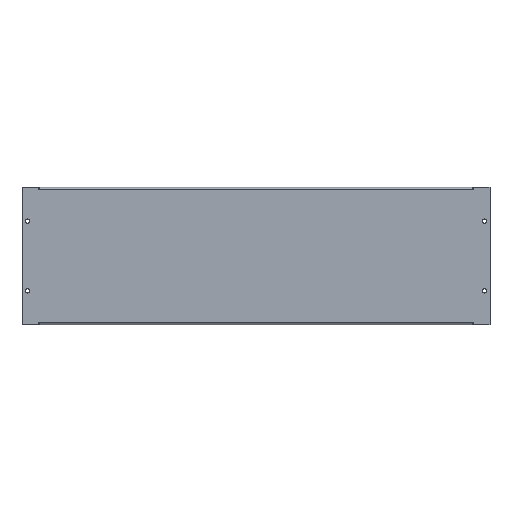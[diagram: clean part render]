
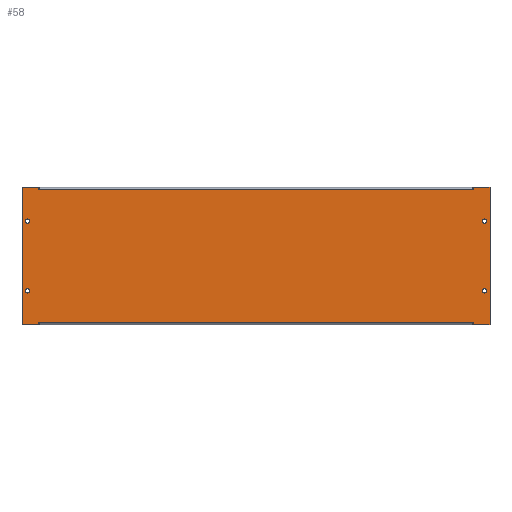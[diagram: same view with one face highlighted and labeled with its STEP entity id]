
A CAD part, top view. The second image highlights one B-rep face of the part: STEP entity #58.
In plain terms, the highlighted planar face has unit normal (0, 0, 1).
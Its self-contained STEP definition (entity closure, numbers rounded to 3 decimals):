
#58=ADVANCED_FACE('',(#142,#144,#146,#148,#150),#152,.F.);
#142=FACE_BOUND('',#143,.T.);
#143=EDGE_LOOP('',(#409,#410,#411,#412,#413,#414,#415,#416,#417,#418,#419,#420,#421,
#422,#423,#424));
#144=FACE_BOUND('',#145,.T.);
#145=EDGE_LOOP('',(#425));
#146=FACE_BOUND('',#147,.T.);
#147=EDGE_LOOP('',(#426));
#148=FACE_BOUND('',#149,.T.);
#149=EDGE_LOOP('',(#427));
#150=FACE_BOUND('',#151,.T.);
#151=EDGE_LOOP('',(#428));
#152=PLANE('',#153);
#153=AXIS2_PLACEMENT_3D('',#154,#155,#156);
#154=CARTESIAN_POINT('',(0.,0.,0.));
#155=DIRECTION('',(0.,0.,-1.));
#156=DIRECTION('',(-1.,0.,0.));
#409=ORIENTED_EDGE('',*,*,#581,.F.);
#410=ORIENTED_EDGE('',*,*,#582,.T.);
#411=ORIENTED_EDGE('',*,*,#583,.F.);
#412=ORIENTED_EDGE('',*,*,#584,.F.);
#413=ORIENTED_EDGE('',*,*,#585,.T.);
#414=ORIENTED_EDGE('',*,*,#586,.T.);
#415=ORIENTED_EDGE('',*,*,#587,.T.);
#416=ORIENTED_EDGE('',*,*,#588,.F.);
#417=ORIENTED_EDGE('',*,*,#589,.F.);
#418=ORIENTED_EDGE('',*,*,#590,.T.);
#419=ORIENTED_EDGE('',*,*,#591,.F.);
#420=ORIENTED_EDGE('',*,*,#592,.F.);
#421=ORIENTED_EDGE('',*,*,#593,.T.);
#422=ORIENTED_EDGE('',*,*,#594,.T.);
#423=ORIENTED_EDGE('',*,*,#595,.T.);
#424=ORIENTED_EDGE('',*,*,#596,.F.);
#425=ORIENTED_EDGE('',*,*,#557,.T.);
#426=ORIENTED_EDGE('',*,*,#559,.T.);
#427=ORIENTED_EDGE('',*,*,#561,.F.);
#428=ORIENTED_EDGE('',*,*,#563,.F.);
#557=EDGE_CURVE('',#645,#645,#646,.T.);
#559=EDGE_CURVE('',#649,#649,#650,.T.);
#561=EDGE_CURVE('',#653,#653,#654,.T.);
#563=EDGE_CURVE('',#657,#657,#658,.T.);
#581=EDGE_CURVE('',#693,#694,#695,.T.);
#582=EDGE_CURVE('',#693,#696,#697,.T.);
#583=EDGE_CURVE('',#698,#696,#699,.T.);
#584=EDGE_CURVE('',#700,#698,#701,.T.);
#585=EDGE_CURVE('',#700,#702,#703,.T.);
#586=EDGE_CURVE('',#702,#704,#705,.T.);
#587=EDGE_CURVE('',#704,#706,#707,.T.);
#588=EDGE_CURVE('',#708,#706,#709,.T.);
#589=EDGE_CURVE('',#710,#708,#711,.T.);
#590=EDGE_CURVE('',#710,#712,#713,.T.);
#591=EDGE_CURVE('',#714,#712,#715,.T.);
#592=EDGE_CURVE('',#716,#714,#717,.T.);
#593=EDGE_CURVE('',#716,#718,#719,.T.);
#594=EDGE_CURVE('',#718,#720,#721,.T.);
#595=EDGE_CURVE('',#720,#722,#723,.T.);
#596=EDGE_CURVE('',#694,#722,#724,.T.);
#645=VERTEX_POINT('',#789);
#646=CIRCLE('',#790,3.15);
#649=VERTEX_POINT('',#799);
#650=CIRCLE('',#800,3.15);
#653=VERTEX_POINT('',#809);
#654=CIRCLE('',#810,3.15);
#657=VERTEX_POINT('',#819);
#658=CIRCLE('',#820,3.15);
#693=VERTEX_POINT('',#893);
#694=VERTEX_POINT('',#894);
#695=LINE('',#895,#896);
#696=VERTEX_POINT('',#898);
#697=LINE('',#899,#900);
#698=VERTEX_POINT('',#902);
#699=LINE('',#903,#904);
#700=VERTEX_POINT('',#906);
#701=LINE('',#907,#908);
#702=VERTEX_POINT('',#910);
#703=LINE('',#911,#912);
#704=VERTEX_POINT('',#914);
#705=LINE('',#915,#916);
#706=VERTEX_POINT('',#918);
#707=LINE('',#919,#920);
#708=VERTEX_POINT('',#922);
#709=LINE('',#923,#924);
#710=VERTEX_POINT('',#926);
#711=LINE('',#927,#928);
#712=VERTEX_POINT('',#930);
#713=LINE('',#931,#932);
#714=VERTEX_POINT('',#934);
#715=LINE('',#935,#936);
#716=VERTEX_POINT('',#938);
#717=LINE('',#939,#940);
#718=VERTEX_POINT('',#942);
#719=LINE('',#943,#944);
#720=VERTEX_POINT('',#946);
#721=LINE('',#947,#948);
#722=VERTEX_POINT('',#950);
#723=LINE('',#951,#952);
#724=LINE('',#954,#955);
#789=CARTESIAN_POINT('',(331.15,50.,0.));
#790=AXIS2_PLACEMENT_3D('',#791,#792,#793);
#791=CARTESIAN_POINT('',(328.,50.,0.));
#792=DIRECTION('',(0.,0.,-1.));
#793=DIRECTION('',(1.,0.,0.));
#799=CARTESIAN_POINT('',(331.15,-50.,0.));
#800=AXIS2_PLACEMENT_3D('',#801,#802,#803);
#801=CARTESIAN_POINT('',(328.,-50.,0.));
#802=DIRECTION('',(0.,0.,-1.));
#803=DIRECTION('',(1.,0.,0.));
#809=CARTESIAN_POINT('',(-324.85,50.,0.));
#810=AXIS2_PLACEMENT_3D('',#811,#812,#813);
#811=CARTESIAN_POINT('',(-328.,50.,0.));
#812=DIRECTION('',(0.,0.,1.));
#813=DIRECTION('',(-1.,0.,0.));
#819=CARTESIAN_POINT('',(-324.85,-50.,0.));
#820=AXIS2_PLACEMENT_3D('',#821,#822,#823);
#821=CARTESIAN_POINT('',(-328.,-50.,0.));
#822=DIRECTION('',(0.,0.,1.));
#823=DIRECTION('',(-1.,0.,0.));
#893=CARTESIAN_POINT('',(311.,95.3,0.));
#894=CARTESIAN_POINT('',(313.,95.3,0.));
#895=CARTESIAN_POINT('',(311.,95.3,0.));
#896=VECTOR('',#897,1.);
#897=DIRECTION('',(1.,0.,0.));
#898=CARTESIAN_POINT('',(-311.,95.3,0.));
#899=CARTESIAN_POINT('',(311.,95.3,0.));
#900=VECTOR('',#901,1.);
#901=DIRECTION('',(-1.,0.,0.));
#902=CARTESIAN_POINT('',(-313.,95.3,0.));
#903=CARTESIAN_POINT('',(-313.,95.3,0.));
#904=VECTOR('',#905,1.);
#905=DIRECTION('',(1.,0.,0.));
#906=CARTESIAN_POINT('',(-313.,98.5,0.));
#907=CARTESIAN_POINT('',(-313.,98.5,0.));
#908=VECTOR('',#909,1.);
#909=DIRECTION('',(0.,-1.,0.));
#910=CARTESIAN_POINT('',(-336.,98.5,0.));
#911=CARTESIAN_POINT('',(-313.,98.5,0.));
#912=VECTOR('',#913,1.);
#913=DIRECTION('',(-1.,0.,0.));
#914=CARTESIAN_POINT('',(-336.,-98.5,0.));
#915=CARTESIAN_POINT('',(-336.,98.5,0.));
#916=VECTOR('',#917,1.);
#917=DIRECTION('',(0.,-1.,0.));
#918=CARTESIAN_POINT('',(-313.,-98.5,0.));
#919=CARTESIAN_POINT('',(-336.,-98.5,0.));
#920=VECTOR('',#921,1.);
#921=DIRECTION('',(1.,0.,0.));
#922=CARTESIAN_POINT('',(-313.,-95.3,0.));
#923=CARTESIAN_POINT('',(-313.,-95.3,0.));
#924=VECTOR('',#925,1.);
#925=DIRECTION('',(0.,-1.,0.));
#926=CARTESIAN_POINT('',(-311.,-95.3,0.));
#927=CARTESIAN_POINT('',(-311.,-95.3,0.));
#928=VECTOR('',#929,1.);
#929=DIRECTION('',(-1.,0.,0.));
#930=CARTESIAN_POINT('',(311.,-95.3,0.));
#931=CARTESIAN_POINT('',(-311.,-95.3,0.));
#932=VECTOR('',#933,1.);
#933=DIRECTION('',(1.,0.,0.));
#934=CARTESIAN_POINT('',(313.,-95.3,0.));
#935=CARTESIAN_POINT('',(313.,-95.3,0.));
#936=VECTOR('',#937,1.);
#937=DIRECTION('',(-1.,0.,0.));
#938=CARTESIAN_POINT('',(313.,-98.5,0.));
#939=CARTESIAN_POINT('',(313.,-98.5,0.));
#940=VECTOR('',#941,1.);
#941=DIRECTION('',(0.,1.,0.));
#942=CARTESIAN_POINT('',(336.,-98.5,0.));
#943=CARTESIAN_POINT('',(313.,-98.5,0.));
#944=VECTOR('',#945,1.);
#945=DIRECTION('',(1.,0.,0.));
#946=CARTESIAN_POINT('',(336.,98.5,0.));
#947=CARTESIAN_POINT('',(336.,-98.5,0.));
#948=VECTOR('',#949,1.);
#949=DIRECTION('',(0.,1.,0.));
#950=CARTESIAN_POINT('',(313.,98.5,0.));
#951=CARTESIAN_POINT('',(336.,98.5,0.));
#952=VECTOR('',#953,1.);
#953=DIRECTION('',(-1.,0.,0.));
#954=CARTESIAN_POINT('',(313.,95.3,0.));
#955=VECTOR('',#956,1.);
#956=DIRECTION('',(0.,1.,0.));
